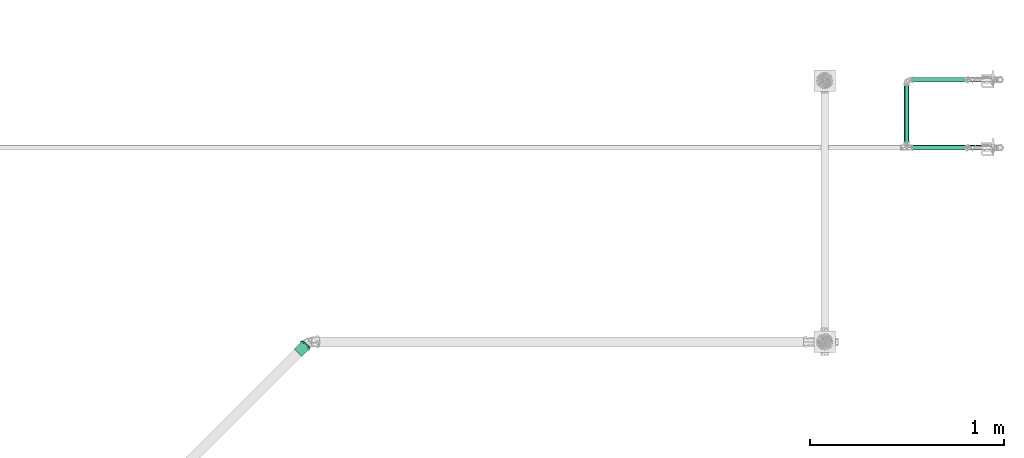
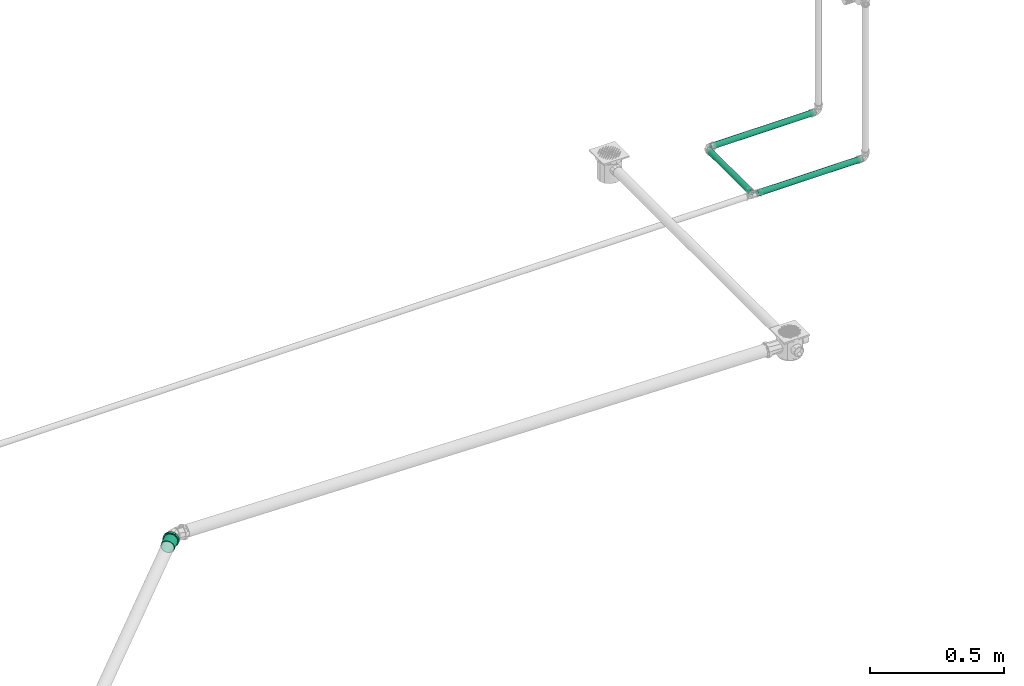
# One storey, part 299 of 589: 3 flow segments, 1 flow fitting.
"""IFC2X3 building model written with IfcOpenShell, lengths in millimetres."""

from ifc_helpers import new_model, entity, si_unit, converted_unit, derived_unit, direction, frame, frame_2d, origin, origin_2d_with_axis, place, context, subcontext, project, spatial, circle, extrude, faceted_brep, source, transform, mapped, material, type_object, type_shapes, element, save


model = new_model("IFC2X3")

# Units and contexts
model_context = context("Model", 3, precision=0.01, world=origin(), true_north=direction((6.123031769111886e-17, 1.0)))
body_context = subcontext(model_context, "Body", "Model", "MODEL_VIEW")
ifc_project = project(units=[si_unit("LENGTHUNIT", "METRE", prefix="MILLI"), si_unit("AREAUNIT", "SQUARE_METRE"), si_unit("VOLUMEUNIT", "CUBIC_METRE"), converted_unit("PLANEANGLEUNIT", "DEGREE", entity("IfcRatioMeasure", 0.017453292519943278), si_unit("PLANEANGLEUNIT", "RADIAN"), dimensions=[0, 0, 0, 0, 0, 0, 0]), si_unit("MASSUNIT", "GRAM", prefix="KILO"), derived_unit("MASSDENSITYUNIT", [(si_unit("MASSUNIT", "GRAM", prefix="KILO"), 1), (si_unit("LENGTHUNIT", "METRE"), -3)]), derived_unit("IONCONCENTRATIONUNIT", [(si_unit("MASSUNIT", "GRAM", prefix="KILO"), 1), (si_unit("LENGTHUNIT", "METRE"), -3)]), derived_unit("MOMENTOFINERTIAUNIT", [(si_unit("LENGTHUNIT", "METRE"), 4)]), si_unit("TIMEUNIT", "SECOND"), si_unit("FREQUENCYUNIT", "HERTZ"), si_unit("THERMODYNAMICTEMPERATUREUNIT", "DEGREE_CELSIUS"), derived_unit("THERMALTRANSMITTANCEUNIT", [(si_unit("MASSUNIT", "GRAM", prefix="KILO"), 1), (si_unit("THERMODYNAMICTEMPERATUREUNIT", "KELVIN"), -1), (si_unit("TIMEUNIT", "SECOND"), -3)]), derived_unit("THERMALCONDUCTANCEUNIT", [(si_unit("MASSUNIT", "GRAM", prefix="KILO"), 1), (si_unit("THERMODYNAMICTEMPERATUREUNIT", "KELVIN"), -1), (si_unit("TIMEUNIT", "SECOND"), -3), (si_unit("LENGTHUNIT", "METRE"), 1)]), derived_unit("VOLUMETRICFLOWRATEUNIT", [(si_unit("LENGTHUNIT", "METRE"), 3), (si_unit("TIMEUNIT", "SECOND"), -1)]), derived_unit("MASSFLOWRATEUNIT", [(si_unit("MASSUNIT", "GRAM", prefix="KILO"), 1), (si_unit("TIMEUNIT", "SECOND"), -1)]), derived_unit("ROTATIONALFREQUENCYUNIT", [(si_unit("TIMEUNIT", "SECOND"), -1)]), si_unit("ELECTRICCURRENTUNIT", "AMPERE"), si_unit("ELECTRICVOLTAGEUNIT", "VOLT"), si_unit("POWERUNIT", "WATT"), si_unit("FORCEUNIT", "NEWTON", prefix="KILO"), si_unit("ILLUMINANCEUNIT", "LUX"), si_unit("LUMINOUSFLUXUNIT", "LUMEN"), si_unit("LUMINOUSINTENSITYUNIT", "CANDELA"), derived_unit("USERDEFINED", [(si_unit("MASSUNIT", "GRAM", prefix="KILO"), -1), (si_unit("LENGTHUNIT", "METRE"), -2), (si_unit("TIMEUNIT", "SECOND"), 3), (si_unit("LUMINOUSFLUXUNIT", "LUMEN"), 1)]), derived_unit("USERDEFINED", [(si_unit("MASSUNIT", "GRAM", prefix="KILO"), 1), (si_unit("TIMEUNIT", "SECOND"), -3), (si_unit("LENGTHUNIT", "METRE"), 3), (si_unit("ELECTRICCURRENTUNIT", "AMPERE"), -2)]), derived_unit("SOUNDPOWERUNIT", [(si_unit("MASSUNIT", "GRAM", prefix="KILO"), 1), (si_unit("TIMEUNIT", "SECOND"), -3), (si_unit("LENGTHUNIT", "METRE"), 2)]), derived_unit("SOUNDPRESSUREUNIT", [(si_unit("MASSUNIT", "GRAM", prefix="KILO"), 1), (si_unit("LENGTHUNIT", "METRE"), -1), (si_unit("TIMEUNIT", "SECOND"), -2)]), derived_unit("LINEARVELOCITYUNIT", [(si_unit("LENGTHUNIT", "METRE"), 1), (si_unit("TIMEUNIT", "SECOND"), -1)]), si_unit("PRESSUREUNIT", "PASCAL"), derived_unit("USERDEFINED", [(si_unit("MASSUNIT", "GRAM", prefix="KILO"), 1), (si_unit("LENGTHUNIT", "METRE"), -2), (si_unit("TIMEUNIT", "SECOND"), -2)]), derived_unit("LINEARFORCEUNIT", [(si_unit("MASSUNIT", "GRAM", prefix="KILO"), 1), (si_unit("TIMEUNIT", "SECOND"), -2)]), derived_unit("PLANARFORCEUNIT", [(si_unit("MASSUNIT", "GRAM", prefix="KILO"), 1), (si_unit("LENGTHUNIT", "METRE"), -1), (si_unit("TIMEUNIT", "SECOND"), -2)]), derived_unit("SPECIFICHEATCAPACITYUNIT", [(si_unit("THERMODYNAMICTEMPERATUREUNIT", "KELVIN"), -1), (si_unit("LENGTHUNIT", "METRE"), 2), (si_unit("TIMEUNIT", "SECOND"), -2)]), derived_unit("HEATINGVALUEUNIT", [(si_unit("LENGTHUNIT", "METRE"), 2), (si_unit("TIMEUNIT", "SECOND"), -2)]), derived_unit("VAPORPERMEABILITYUNIT", [(si_unit("LENGTHUNIT", "METRE"), -1), (si_unit("TIMEUNIT", "SECOND"), 1)]), derived_unit("DYNAMICVISCOSITYUNIT", [(si_unit("MASSUNIT", "GRAM", prefix="KILO"), 1), (si_unit("TIMEUNIT", "SECOND"), -1), (si_unit("LENGTHUNIT", "METRE"), -1)]), derived_unit("THERMALEXPANSIONCOEFFICIENTUNIT", [(si_unit("THERMODYNAMICTEMPERATUREUNIT", "KELVIN"), -1)]), derived_unit("MODULUSOFELASTICITYUNIT", [(si_unit("MASSUNIT", "GRAM", prefix="KILO"), 1), (si_unit("LENGTHUNIT", "METRE"), -1), (si_unit("TIMEUNIT", "SECOND"), -2)]), derived_unit("ISOTHERMALMOISTURECAPACITYUNIT", [(si_unit("LENGTHUNIT", "METRE"), 3), (si_unit("MASSUNIT", "GRAM", prefix="KILO"), -1)]), derived_unit("MOISTUREDIFFUSIVITYUNIT", [(si_unit("TIMEUNIT", "SECOND"), -1), (si_unit("LENGTHUNIT", "METRE"), 2)])], contexts=[model_context])

# Site, building, storey
site_placement = place(None, origin())
site = spatial("IfcSite", under=ifc_project, at=site_placement, Name="Default", CompositionType="ELEMENT")
building_placement = place(site_placement, origin())
building = spatial("IfcBuilding", under=site, at=building_placement, CompositionType="ELEMENT")
storey_placement = place(building_placement, frame((0.0, 0.0, 100.0)))
storey = spatial("IfcBuildingStorey", under=building, at=storey_placement, Name="TÉRREO", CompositionType="ELEMENT", Elevation=100.0)

# Flow segments
pipe_segment_type = type_object("IfcPipeSegmentType", Name="Tipos de tubos:PVC Marrom Soldável", PredefinedType="NOTDEFINED")
flow_segment_1_placement = place(storey_placement, origin())
element("IfcFlowSegment", 1, at=flow_segment_1_placement, inside=storey, type_object=pipe_segment_type, Name="Tipos de tubos:PVC Marrom Soldável", ObjectType="Tipos de tubos:PVC Marrom Soldável", context=body_context, shape_type="SweptSolid", body=[
    extrude(circle(Radius=12.5, at=origin_2d_with_axis()), frame((21701.339989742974, 6044.222132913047, -250.0), z_axis=(1.0, 0.0, 0.0), x_axis=(0.0, -1.0, 0.0)), (0.0, 0.0, 1.0), 450.6879602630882),
])
flow_segment_2_placement = place(storey_placement, origin())
element("IfcFlowSegment", 2, at=flow_segment_2_placement, inside=storey, type_object=pipe_segment_type, Name="Tipos de tubos:PVC Marrom Soldável", ObjectType="Tipos de tubos:PVC Marrom Soldável", context=body_context, shape_type="SweptSolid", body=[
    extrude(circle(Radius=12.5, at=origin_2d_with_axis()), frame((21685.439989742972, 6058.722132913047, -250.0), z_axis=(0.0, 1.0, 0.0), x_axis=(1.0, 0.0, 0.0)), (0.0, 0.0, 1.0), 320.0999999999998),
])
flow_segment_3_placement = place(storey_placement, origin())
element("IfcFlowSegment", 3, at=flow_segment_3_placement, inside=storey, type_object=pipe_segment_type, Name="Tipos de tubos:PVC Marrom Soldável", ObjectType="Tipos de tubos:PVC Marrom Soldável", context=body_context, shape_type="SweptSolid", body=[
    extrude(circle(Radius=12.5, at=frame_2d((-1.0828671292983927e-12, -1.6919798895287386e-14), x_axis=(1.0, 0.0))), frame((21700.839989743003, 6394.222132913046, -250.0), z_axis=(1.0, 0.0, 0.0), x_axis=(0.0, 1.0, 0.0)), (0.0, 0.0, 1.0), 451.18796026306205),
])

# Flow fitting
ifc_material = material(Name="PVC Série Normal")
pipe_fitting_type = type_object("IfcPipeFittingType", Name="PVC Esgoto_Luva Simples para Conexão_Rodrigo MEP:Standard", PredefinedType="NOTDEFINED", material=ifc_material)
shared_shape = source(origin(), body_context, "Body", "Brep", [
    faceted_brep([(16.599999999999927, 15.900000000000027, -27.53960784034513), (16.599999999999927, 22.485995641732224, -22.485995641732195), (16.599999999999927, 13.599999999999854, -23.555890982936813), (16.599999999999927, 7.039878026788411, -26.273182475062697), (16.599999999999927, 8.2304456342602, -30.71644127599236), (16.599999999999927, 19.233304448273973, -19.233304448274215), (16.599999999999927, 27.539607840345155, -15.899999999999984), (16.599999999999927, 23.55589098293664, -13.600000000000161), (16.599999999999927, 26.273182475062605, -7.03987802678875), (16.599999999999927, 30.716441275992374, -8.230445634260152), (16.599999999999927, 27.2, 0.0), (16.599999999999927, 31.8, 0.0), (16.599999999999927, 26.273182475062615, 7.0398780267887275), (16.599999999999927, 30.71644127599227, 8.23044563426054), (16.599999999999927, 23.555890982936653, 13.60000000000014), (16.599999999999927, 27.539607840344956, 15.900000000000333), (16.599999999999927, 19.233304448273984, 19.2333044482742), (16.599999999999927, 22.485995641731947, 22.48599564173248), (16.599999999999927, 13.599999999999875, 23.555890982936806), (16.599999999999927, 15.899999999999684, 27.53960784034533), (16.599999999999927, 7.039878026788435, 26.27318247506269), (16.599999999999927, 8.230445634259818, 30.716441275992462), (16.599999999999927, 0.0, 27.2), (16.599999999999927, 0.0, 31.8), (16.599999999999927, -7.039878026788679, 26.273182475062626), (16.599999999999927, -8.230445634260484, 30.716441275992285), (16.599999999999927, -13.600000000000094, 23.555890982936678), (16.599999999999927, -15.900000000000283, 27.53960784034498), (16.599999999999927, -19.23330444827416, 19.233304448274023), (16.599999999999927, -22.485995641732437, 22.48599564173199), (16.599999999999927, -23.55589098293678, 13.59999999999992), (16.599999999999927, -27.539607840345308, 15.899999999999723), (16.599999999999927, -30.71644127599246, 8.230445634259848), (16.599999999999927, -26.273182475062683, 7.039878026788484), (16.599999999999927, -31.8, 0.0), (16.599999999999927, -27.2, 0.0), (16.599999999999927, -30.71644127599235, -8.23044563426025), (16.599999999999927, -26.273182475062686, -7.03987802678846), (16.599999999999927, -27.53960784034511, -15.90000000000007), (16.599999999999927, -23.55589098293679, -13.599999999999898), (16.599999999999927, -22.485995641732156, -22.485995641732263), (16.599999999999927, -19.233304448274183, -19.233304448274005), (16.599999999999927, -15.899999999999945, -27.53960784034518), (16.599999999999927, -13.600000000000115, -23.555890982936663), (16.599999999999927, -8.230445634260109, -30.716441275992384), (16.599999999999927, -7.039878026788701, -26.273182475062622), (16.599999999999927, 0.0, -31.8), (16.599999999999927, 0.0, -27.2), (6.500000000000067, -10.708108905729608, 29.429219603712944), (6.500000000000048, -24.359073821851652, 20.44200387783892), (6.500000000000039, -27.120498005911, 15.6595386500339), (6.50000000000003, -29.881922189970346, 10.877073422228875), (6.500000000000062, -15.89769721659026, 27.540937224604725), (6.500000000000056, -20.128385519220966, 23.991470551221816), (6.50000000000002, -30.840961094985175, 5.438536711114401), (6.5000000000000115, -31.8, 0.0), (6.50000000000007, -5.518520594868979, 31.317501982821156), (6.500000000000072, 5.526376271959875, 31.316116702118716), (6.50000000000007, 0.00392783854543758, 31.316809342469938), (6.500000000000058, 20.134403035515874, 23.986420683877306), (6.500000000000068, 10.715490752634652, 29.42653259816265), (6.500000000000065, 15.904605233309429, 27.536948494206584), (6.500000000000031, 29.8846497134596, 10.869577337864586), (6.500000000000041, 27.12442527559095, 15.652735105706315), (6.5000000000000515, 24.364200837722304, 20.435892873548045), (6.5000000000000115, 31.8, 0.0), (6.499999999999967, 24.364200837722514, -20.435892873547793), (6.499999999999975, 27.12442527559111, -15.652735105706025), (6.499999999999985, 29.884649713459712, -10.869577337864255), (6.4999999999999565, 15.904605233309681, -27.53694849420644), (6.499999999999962, 20.134403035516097, -23.986420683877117), (6.499999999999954, 10.715490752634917, -29.42653259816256), (6.499999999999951, 5.526376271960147, -31.31611670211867), (6.499999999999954, -5.518520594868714, -31.317501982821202), (6.499999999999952, 0.003927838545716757, -31.316809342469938), (6.499999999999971, -20.128385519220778, -23.99147055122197), (6.499999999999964, -15.897697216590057, -27.54093722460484), (6.499999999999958, -10.70810890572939, -29.42921960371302), (6.499999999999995, -29.881922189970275, -10.877073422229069), (6.499999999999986, -27.12049800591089, -15.659538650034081), (6.499999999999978, -24.359073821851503, -20.442003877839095), (6.500000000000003, -30.840961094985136, -5.438536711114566), (6.499999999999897, -30.696173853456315, -6.259599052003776), (62.0, 13.600000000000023, -23.55589098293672), (62.0, 19.233304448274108, -19.23330444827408), (62.0, 12.499999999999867, -21.650635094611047), (62.0, 6.470476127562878, -24.14814565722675), (62.0, 7.039878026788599, -26.273182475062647), (62.0, 17.677669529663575, -17.677669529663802), (62.0, 23.55589098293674, -13.599999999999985), (62.0, 21.65063509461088, -12.50000000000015), (62.0, 24.148145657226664, -6.470476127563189), (62.0, 26.27318247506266, -7.039878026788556), (62.0, 25.0, 0.0), (62.0, 27.2, 0.0), (62.0, 24.148145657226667, 6.4704761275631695), (62.0, 26.273182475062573, 7.03987802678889), (62.0, 21.650635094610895, 12.500000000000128), (62.0, 23.555890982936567, 13.600000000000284), (62.0, 17.67766952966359, 17.67766952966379), (62.0, 19.233304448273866, 19.233304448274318), (62.0, 12.499999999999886, 21.650635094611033), (62.0, 13.59999999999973, 23.55589098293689), (62.0, 6.4704761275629, 24.14814565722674), (62.0, 7.039878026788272, 26.273182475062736), (62.0, 0.0, 25.0), (62.0, 0.0, 27.2), (62.0, -6.470476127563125, 24.148145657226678), (62.0, -7.039878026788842, 26.273182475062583), (62.0, -12.500000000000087, 21.650635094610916), (62.0, -13.600000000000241, 23.555890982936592), (62.0, -17.677669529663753, 17.677669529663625), (62.0, -19.233304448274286, 19.2333044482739), (62.0, -21.65063509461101, 12.499999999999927), (62.0, -23.555890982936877, 13.599999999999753), (62.0, -26.27318247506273, 7.039878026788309), (62.0, -24.14814565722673, 6.470476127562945), (62.0, -27.2, 0.0), (62.0, -25.0, 0.0), (62.0, -26.27318247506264, -7.0398780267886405), (62.0, -24.148145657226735, -6.470476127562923), (62.0, -23.5558909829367, -13.600000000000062), (62.0, -21.650635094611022, -12.499999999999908), (62.0, -19.233304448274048, -19.233304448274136), (62.0, -17.67766952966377, -17.677669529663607), (62.0, -13.599999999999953, -23.555890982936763), (62.0, -12.500000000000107, -21.650635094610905), (62.0, -7.039878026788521, -26.27318247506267), (62.0, -6.470476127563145, -24.148145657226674), (62.0, 0.0, -27.2), (62.0, 0.0, -25.0), (0.0, 12.499999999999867, -21.650635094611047), (0.0, 19.233304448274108, -19.23330444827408), (0.0, 13.600000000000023, -23.55589098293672), (0.0, 6.470476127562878, -24.14814565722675), (0.0, 17.677669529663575, -17.677669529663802), (0.0, 23.55589098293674, -13.599999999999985), (0.0, 21.65063509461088, -12.50000000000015), (0.0, 24.148145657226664, -6.470476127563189), (0.0, 26.27318247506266, -7.039878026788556), (0.0, 25.0, 0.0), (0.0, 27.2, 0.0), (0.0, 24.148145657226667, 6.4704761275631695), (0.0, 26.273182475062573, 7.03987802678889), (0.0, 21.650635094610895, 12.500000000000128), (0.0, 23.555890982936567, 13.600000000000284), (0.0, 17.67766952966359, 17.67766952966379), (0.0, 19.233304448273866, 19.233304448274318), (0.0, 12.499999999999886, 21.650635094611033), (0.0, 13.59999999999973, 23.55589098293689), (0.0, 6.4704761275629, 24.14814565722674), (0.0, 7.039878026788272, 26.273182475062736), (0.0, 0.0, 25.0), (0.0, 0.0, 27.2), (0.0, -6.470476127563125, 24.148145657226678), (0.0, -7.039878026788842, 26.273182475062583), (0.0, -12.500000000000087, 21.650635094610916), (0.0, -13.600000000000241, 23.555890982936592), (0.0, -17.677669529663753, 17.677669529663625), (0.0, -19.233304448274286, 19.2333044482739), (0.0, -21.65063509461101, 12.499999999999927), (0.0, -23.555890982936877, 13.599999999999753), (0.0, -26.27318247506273, 7.039878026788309), (0.0, -24.14814565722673, 6.470476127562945), (0.0, -27.2, 0.0), (0.0, -25.0, 0.0), (0.0, -26.27318247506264, -7.0398780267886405), (0.0, -24.148145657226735, -6.470476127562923), (0.0, -23.5558909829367, -13.600000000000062), (0.0, -21.650635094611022, -12.499999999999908), (0.0, -19.233304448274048, -19.233304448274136), (0.0, -17.67766952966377, -17.677669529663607), (0.0, -13.599999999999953, -23.555890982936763), (0.0, -12.500000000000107, -21.650635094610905), (0.0, -7.039878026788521, -26.27318247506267), (0.0, -6.470476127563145, -24.148145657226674), (0.0, 0.0, -27.2), (0.0, 0.0, -25.0), (0.0, 7.039878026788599, -26.273182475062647), (5.300000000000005, -26.37968999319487, 4.651830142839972), (5.299999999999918, -26.25584678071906, 5.354122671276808), (5.300000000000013, -25.559379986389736, 9.303660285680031), (5.300000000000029, -20.835434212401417, 17.48498444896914), (5.300000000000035, -17.216732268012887, 20.521006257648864), (5.300000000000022, -23.19740709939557, 13.394322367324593), (5.3000000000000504, -4.720244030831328, 26.787297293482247), (5.300000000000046, -9.15913717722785, 25.172162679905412), (5.299999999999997, -27.2, 0.0), (5.300000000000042, -13.598030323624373, 23.557028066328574), (5.300000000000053, 9.165451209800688, 25.169864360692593), (5.300000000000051, 13.603939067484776, 23.55361632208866), (5.300000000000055, 4.7269633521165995, 26.786112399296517), (5.300000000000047, 17.221879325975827, 20.516686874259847), (5.300000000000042, 20.839819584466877, 17.479757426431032), (5.3000000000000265, 25.56171296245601, 9.297248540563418), (5.299999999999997, 27.2, 0.0), (5.3000000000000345, 23.20076627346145, 13.388502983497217), (5.300000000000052, 0.003359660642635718, 26.786704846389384), (5.299999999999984, 25.56171296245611, -9.29724854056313), (5.299999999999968, 20.839819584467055, -17.47975742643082), (5.2999999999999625, 17.22187932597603, -20.516686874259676), (5.299999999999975, 23.200766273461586, -13.388502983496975), (5.299999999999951, 4.726963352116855, -26.78611239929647), (5.2999999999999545, 9.165451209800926, -25.169864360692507), (5.299999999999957, 13.603939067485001, -23.553616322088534), (5.29999999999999, -26.379689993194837, -4.651830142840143), (5.299999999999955, -9.159137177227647, -25.17216267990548), (5.299999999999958, -13.5980303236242, -23.55702806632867), (5.299999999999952, -4.720244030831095, -26.787297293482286), (5.299999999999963, -17.216732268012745, -20.52100625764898), (5.299999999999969, -20.83543421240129, -17.484984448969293), (5.299999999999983, -25.559379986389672, -9.303660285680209), (5.299999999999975, -23.197407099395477, -13.394322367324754), (5.299999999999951, 0.003359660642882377, -26.78670484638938), (39.0, -25.0, 0.0), (39.0, 25.0, 0.0)], [[[0, 1, 2]], [[0, 2, 3]], [[3, 4, 0]], [[2, 1, 5]], [[6, 5, 1]], [[7, 5, 6]], [[8, 7, 6]], [[8, 6, 9]], [[8, 9, 10]], [[10, 9, 11]], [[12, 10, 11]], [[12, 11, 13]], [[14, 12, 13]], [[14, 13, 15]], [[16, 14, 15]], [[15, 17, 16]], [[17, 18, 16]], [[17, 19, 18]], [[18, 19, 20]], [[21, 20, 19]], [[20, 21, 22]], [[22, 21, 23]], [[22, 23, 24]], [[24, 23, 25]], [[24, 25, 26]], [[27, 26, 25]], [[27, 28, 26]], [[28, 27, 29]], [[30, 28, 29]], [[31, 30, 29]], [[32, 30, 31]], [[33, 30, 32]], [[33, 32, 34]], [[35, 33, 34]], [[36, 35, 34]], [[36, 37, 35]], [[37, 36, 38]], [[39, 37, 38]], [[39, 38, 40]], [[39, 40, 41]], [[40, 42, 41]], [[41, 42, 43]], [[43, 42, 44]], [[44, 45, 43]], [[46, 45, 44]], [[4, 47, 46]], [[46, 47, 45]], [[4, 3, 47]], [[48, 27, 25]], [[31, 29, 49]], [[31, 49, 50, 51]], [[52, 53, 27]], [[32, 51, 54]], [[54, 55, 34]], [[54, 34, 32]], [[25, 56, 48]], [[49, 29, 53]], [[23, 57, 58, 56]], [[59, 19, 17]], [[27, 53, 29]], [[48, 52, 27]], [[31, 51, 32]], [[57, 23, 21]], [[60, 19, 61]], [[15, 62, 63, 64]], [[19, 60, 21]], [[15, 13, 62]], [[17, 64, 59]], [[57, 21, 60]], [[23, 56, 25]], [[15, 64, 17]], [[13, 65, 62]], [[13, 11, 65]], [[59, 61, 19]], [[65, 11, 9]], [[6, 1, 66]], [[6, 66, 67, 68]], [[69, 70, 0]], [[68, 65, 9]], [[71, 69, 0]], [[71, 0, 4]], [[4, 72, 71]], [[66, 1, 70]], [[46, 73, 74, 72]], [[75, 76, 42]], [[0, 70, 1]], [[75, 42, 40]], [[6, 68, 9]], [[73, 46, 44]], [[77, 42, 76]], [[38, 78, 79, 80]], [[42, 77, 44]], [[38, 36, 78]], [[40, 80, 75]], [[73, 44, 77]], [[46, 72, 4]], [[38, 80, 40]], [[36, 81, 82, 78]], [[55, 81, 34]], [[34, 81, 36]], [[83, 84, 85]], [[83, 85, 86]], [[86, 87, 83]], [[85, 84, 88]], [[89, 88, 84]], [[88, 89, 90]], [[90, 89, 91]], [[92, 91, 89]], [[92, 93, 91]], [[93, 92, 94]], [[95, 93, 94]], [[94, 96, 95]], [[95, 96, 97]], [[98, 97, 96]], [[97, 98, 99]], [[99, 98, 100]], [[101, 99, 100]], [[100, 102, 101]], [[101, 102, 103]], [[104, 103, 102]], [[103, 104, 105]], [[105, 104, 106]], [[105, 106, 107]], [[107, 106, 108]], [[107, 108, 109]], [[110, 109, 108]], [[110, 111, 109]], [[111, 110, 112]], [[112, 113, 111]], [[114, 113, 112]], [[113, 114, 115]], [[115, 116, 113]], [[117, 116, 115]], [[117, 118, 116]], [[119, 118, 117]], [[119, 120, 118]], [[120, 119, 121]], [[121, 122, 120]], [[122, 121, 123]], [[122, 123, 124]], [[123, 125, 124]], [[124, 125, 126]], [[126, 125, 127]], [[127, 128, 126]], [[129, 128, 127]], [[87, 130, 129]], [[129, 130, 128]], [[87, 86, 130]], [[131, 132, 133]], [[134, 131, 133]], [[135, 132, 131]], [[132, 135, 136]], [[137, 136, 135]], [[138, 136, 137]], [[136, 138, 139]], [[138, 140, 139]], [[141, 139, 140]], [[141, 140, 142]], [[142, 143, 141]], [[144, 143, 142]], [[143, 144, 145]], [[146, 145, 144]], [[147, 145, 146]], [[147, 146, 148]], [[148, 149, 147]], [[150, 149, 148]], [[149, 150, 151]], [[152, 151, 150]], [[153, 151, 152]], [[154, 153, 152]], [[155, 153, 154]], [[156, 155, 154]], [[155, 156, 157]], [[156, 158, 157]], [[159, 157, 158]], [[158, 160, 159]], [[159, 160, 161]], [[162, 161, 160]], [[160, 163, 162]], [[162, 163, 164]], [[163, 165, 164]], [[164, 165, 166]], [[165, 167, 166]], [[168, 166, 167]], [[167, 169, 168]], [[170, 168, 169]], [[171, 170, 169]], [[171, 172, 170]], [[173, 172, 171]], [[174, 172, 173]], [[173, 175, 174]], [[174, 175, 176]], [[175, 177, 176]], [[177, 134, 178]], [[176, 177, 178]], [[133, 178, 134]], [[162, 179, 180, 181]], [[159, 182, 183]], [[182, 161, 181, 184]], [[185, 155, 186]], [[161, 162, 181]], [[187, 179, 164]], [[183, 188, 157]], [[183, 157, 159]], [[161, 182, 159]], [[189, 190, 149]], [[189, 149, 151]], [[157, 188, 186]], [[157, 186, 155]], [[153, 155, 185]], [[164, 179, 162]], [[151, 191, 189]], [[147, 192, 193]], [[143, 194, 195]], [[194, 145, 193, 196]], [[143, 195, 141]], [[10, 12, 96, 94]], [[149, 192, 147]], [[153, 185, 197, 191]], [[153, 191, 151]], [[145, 147, 193]], [[190, 192, 149]], [[145, 194, 143]], [[139, 195, 198]], [[132, 199, 200]], [[199, 136, 198, 201]], [[202, 178, 203]], [[136, 139, 198]], [[139, 141, 195]], [[92, 8, 10, 94]], [[133, 203, 178]], [[200, 204, 133]], [[136, 199, 132]], [[205, 164, 166]], [[206, 207, 172]], [[133, 204, 203]], [[206, 172, 174]], [[176, 178, 202]], [[200, 133, 132]], [[174, 208, 206]], [[170, 209, 210]], [[166, 211, 205]], [[211, 168, 210, 212]], [[168, 211, 166]], [[172, 209, 170]], [[176, 202, 213, 208]], [[176, 208, 174]], [[168, 170, 210]], [[207, 209, 172]], [[205, 187, 164]], [[116, 118, 214, 165, 163]], [[156, 109, 111, 158]], [[111, 113, 160, 158]], [[113, 116, 163, 160]], [[107, 109, 156, 154]], [[154, 152, 105, 107]], [[103, 105, 152, 150]], [[103, 150, 148, 101]], [[142, 95, 97, 144]], [[97, 99, 146, 144]], [[99, 101, 148, 146]], [[93, 95, 142, 140, 215]], [[215, 140, 138, 91, 93]], [[135, 131, 85, 88]], [[90, 91, 138, 137]], [[90, 137, 135, 88]], [[86, 85, 131, 134]], [[134, 177, 130, 86]], [[128, 130, 177, 175]], [[128, 175, 173, 126]], [[167, 120, 122, 169]], [[122, 124, 171, 169]], [[124, 126, 173, 171]], [[118, 120, 167, 165, 214]], [[211, 78, 82, 81, 55, 187, 205]], [[79, 78, 211, 212, 210, 80]], [[75, 80, 210, 209, 207, 76]], [[207, 206, 208, 73, 77, 76]], [[213, 202, 72, 74, 73, 208]], [[203, 204, 69, 71, 72, 202]], [[198, 195, 65, 68]], [[199, 201, 198, 68, 67, 66]], [[204, 200, 199, 66, 70, 69]], [[195, 194, 62, 65]], [[197, 185, 56, 58, 57, 191]], [[63, 62, 194, 196, 193, 64]], [[57, 60, 61, 190, 189, 191]], [[193, 192, 190, 61, 59, 64]], [[48, 56, 185, 186, 188, 52]], [[187, 55, 54, 51, 181, 180, 179]], [[182, 184, 181, 51, 50, 49]], [[188, 183, 182, 49, 53, 52]], [[30, 33, 115, 114]], [[117, 115, 33, 35]], [[26, 28, 112, 110]], [[114, 112, 28, 30]], [[24, 26, 110, 108]], [[108, 106, 22, 24]], [[18, 20, 104, 102]], [[100, 16, 18, 102]], [[12, 14, 98, 96]], [[100, 98, 14, 16]], [[104, 20, 22, 106]], [[89, 7, 8, 92]], [[83, 87, 3, 2]], [[7, 89, 84, 5]], [[83, 2, 5, 84]], [[87, 129, 47, 3]], [[43, 45, 127, 125]], [[123, 41, 43, 125]], [[37, 39, 121, 119]], [[123, 121, 39, 41]], [[35, 37, 119, 117]], [[127, 45, 47, 129]]]),
])
type_shapes(pipe_fitting_type, [shared_shape])
flow_fitting_placement = place(storey_placement, frame((18596.288240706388, 5032.924782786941, -117.86642757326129), z_axis=(0.019984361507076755, -0.034115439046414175, 0.9992180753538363), x_axis=(-0.7070714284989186, -0.707071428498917, -0.009999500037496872)))
element("IfcFlowFitting", 4, at=flow_fitting_placement, inside=storey, type_object=pipe_fitting_type, material=ifc_material, Name="PVC Esgoto_Luva Simples para Conexão_Rodrigo MEP:Standard", ObjectType="PVC Esgoto_Luva Simples para Conexão_Rodrigo MEP:Standard", context=body_context, shape_type="MappedRepresentation", body=[
    mapped(shared_shape, transform((0.0, 0.0, 0.0), scale=1.0)),
])

save(model, "model.ifc")
